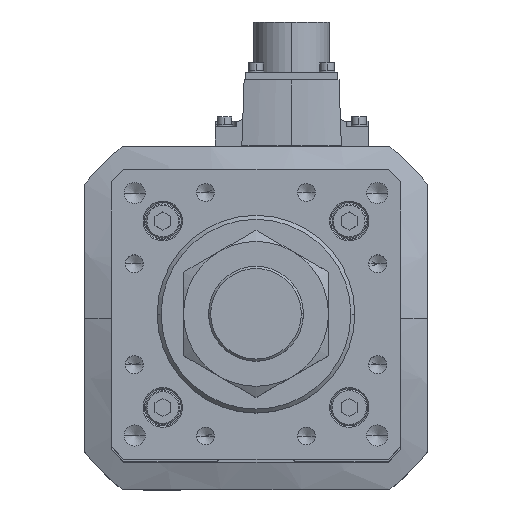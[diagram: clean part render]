
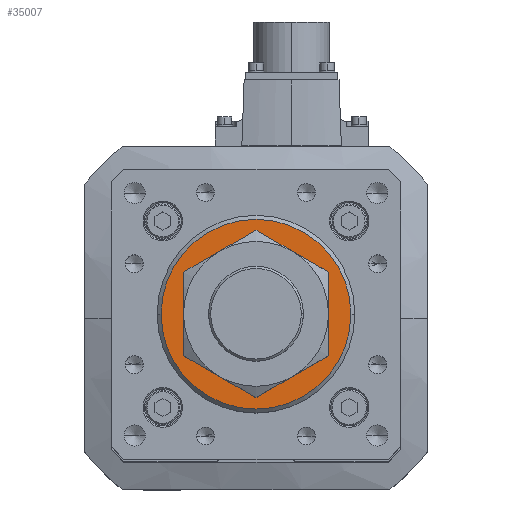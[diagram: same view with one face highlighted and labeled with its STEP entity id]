
A CAD part, top view. The second image highlights one B-rep face of the part: STEP entity #35007.
In plain terms, the highlighted planar face has unit normal (0, 0, 1).
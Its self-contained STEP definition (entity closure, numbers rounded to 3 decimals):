
#959 = VERTEX_POINT ( 'NONE', #25120 ) ;
#1251 = EDGE_CURVE ( 'NONE', #32877, #959, #12216, .T. ) ;
#1595 = CARTESIAN_POINT ( 'NONE',  ( 0., 0., 596. ) ) ;
#1859 = DIRECTION ( 'NONE',  ( 0., 0., 1. ) ) ;
#2924 = ORIENTED_EDGE ( 'NONE', *, *, #1251, .T. ) ;
#4912 = DIRECTION ( 'NONE',  ( 1., 0., 0. ) ) ;
#5807 = AXIS2_PLACEMENT_3D ( 'NONE', #1595, #33810, #7228 ) ;
#7228 = DIRECTION ( 'NONE',  ( 1., 0., 0. ) ) ;
#7491 = CARTESIAN_POINT ( 'NONE',  ( 0., 0., 596. ) ) ;
#8623 = DIRECTION ( 'NONE',  ( 0., 0., 1. ) ) ;
#8788 = DIRECTION ( 'NONE',  ( 1., 0., 0. ) ) ;
#11200 = PLANE ( 'NONE',  #30870 ) ;
#11274 = EDGE_CURVE ( 'NONE', #959, #32877, #22471, .T. ) ;
#12216 = CIRCLE ( 'NONE', #28476, 36. ) ;
#12300 = EDGE_CURVE ( 'NONE', #20429, #18325, #20388, .T. ) ;
#17321 = CARTESIAN_POINT ( 'NONE',  ( 0., 0., 596. ) ) ;
#18325 = VERTEX_POINT ( 'NONE', #37396 ) ;
#18453 = FACE_BOUND ( 'NONE', #33349, .T. ) ;
#18721 = ORIENTED_EDGE ( 'NONE', *, *, #35953, .T. ) ;
#19977 = CARTESIAN_POINT ( 'NONE',  ( 0., 0., 596. ) ) ;
#20388 = CIRCLE ( 'NONE', #37554, 23. ) ;
#20429 = VERTEX_POINT ( 'NONE', #37712 ) ;
#22289 = DIRECTION ( 'NONE',  ( 1., 0., 0. ) ) ;
#22471 = CIRCLE ( 'NONE', #29267, 36. ) ;
#25120 = CARTESIAN_POINT ( 'NONE',  ( 36., 0., 596. ) ) ;
#25409 = EDGE_LOOP ( 'NONE', ( #2924, #25647 ) ) ;
#25647 = ORIENTED_EDGE ( 'NONE', *, *, #11274, .T. ) ;
#26439 = CARTESIAN_POINT ( 'NONE',  ( -36., 0., 596. ) ) ;
#26617 = DIRECTION ( 'NONE',  ( 0., 0., 1. ) ) ;
#28476 = AXIS2_PLACEMENT_3D ( 'NONE', #35137, #26617, #8788 ) ;
#29267 = AXIS2_PLACEMENT_3D ( 'NONE', #7491, #1859, #22289 ) ;
#30870 = AXIS2_PLACEMENT_3D ( 'NONE', #17321, #8623, #34192 ) ;
#32877 = VERTEX_POINT ( 'NONE', #26439 ) ;
#32927 = FACE_OUTER_BOUND ( 'NONE', #25409, .T. ) ;
#33349 = EDGE_LOOP ( 'NONE', ( #34017, #18721 ) ) ;
#33810 = DIRECTION ( 'NONE',  ( 0., 0., -1. ) ) ;
#34017 = ORIENTED_EDGE ( 'NONE', *, *, #12300, .T. ) ;
#34041 = DIRECTION ( 'NONE',  ( 0., 0., -1. ) ) ;
#34192 = DIRECTION ( 'NONE',  ( 1., 0., 0. ) ) ;
#35007 = ADVANCED_FACE ( 'NONE', ( #18453, #32927 ), #11200, .T. ) ;
#35137 = CARTESIAN_POINT ( 'NONE',  ( 0., 0., 596. ) ) ;
#35181 = CIRCLE ( 'NONE', #5807, 23. ) ;
#35953 = EDGE_CURVE ( 'NONE', #18325, #20429, #35181, .T. ) ;
#37396 = CARTESIAN_POINT ( 'NONE',  ( -23., 0., 596. ) ) ;
#37554 = AXIS2_PLACEMENT_3D ( 'NONE', #19977, #34041, #4912 ) ;
#37712 = CARTESIAN_POINT ( 'NONE',  ( 23., 0., 596. ) ) ;
